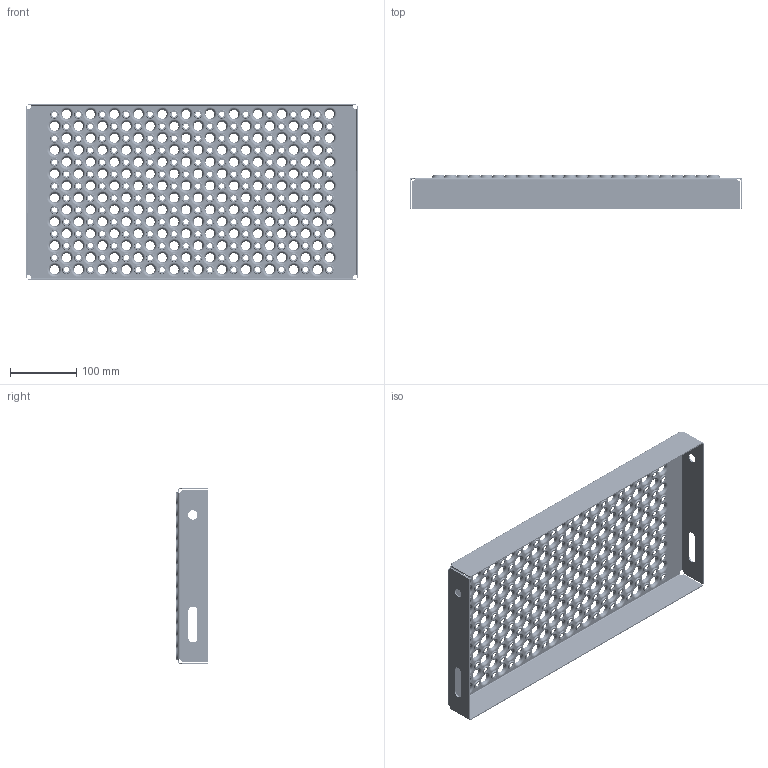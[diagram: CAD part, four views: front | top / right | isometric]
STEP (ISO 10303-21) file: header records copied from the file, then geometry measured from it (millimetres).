
FILE_DESCRIPTION (( 'STEP AP203' ), '1' );
FILE_NAME ('80242605G_Lejdertrin_265x500x45_mm_.STEP', '2015-01-19T07:08:26', ( '' ), ( '' ), 'SwSTEP 2.0', 'SolidWorks 2013', '' );
FILE_SCHEMA (( 'CONFIG_CONTROL_DESIGN' ));
Length unit declared in the file: millimetre
Products named in the file (1): 80242605G_Lejdertrin_265x500x45_mm_
Bounding box: 500 x 49.5 x 265 mm (x, y, z)
Volume: 366332.6 mm3; surface area: 395193 mm2
Topology: 1 solids, 1 shells, 1748 faces, 4870 edges, 3124 vertices
Faces by surface type: cone 1008, torus 672, cylinder 34, plane 26, bspline 8
Full cylindrical faces by diameter (mm): 14 x2
Entity records: 40765 total; most frequent: DIRECTION 7698, CARTESIAN_POINT 6545, ORIENTED_EDGE 4360, EDGE_LOOP 4110, AXIS2_PLACEMENT_3D 3809, FACE_OUTER_BOUND 2422, EDGE_CURVE 2180, VERTEX_POINT 2116
